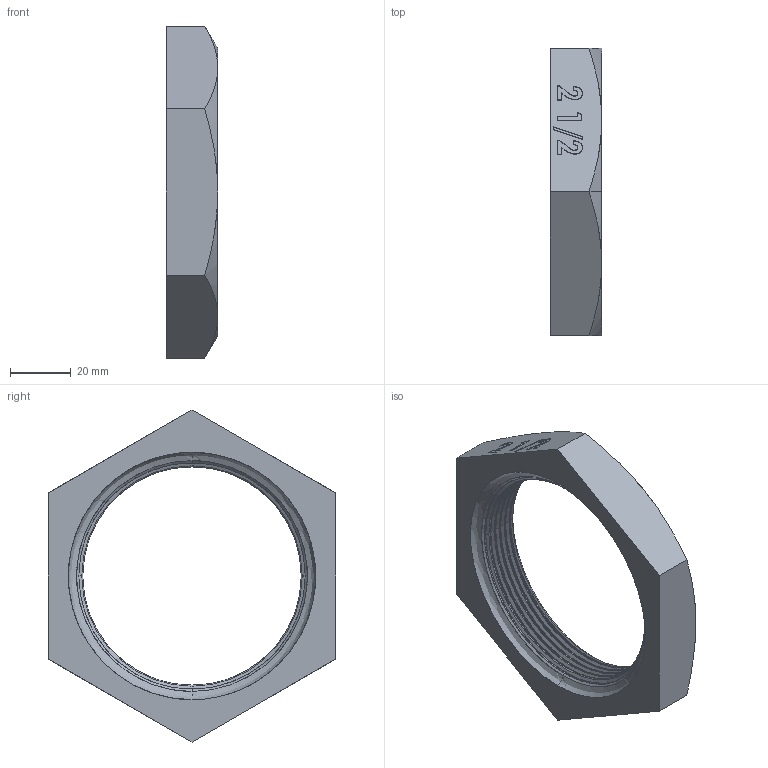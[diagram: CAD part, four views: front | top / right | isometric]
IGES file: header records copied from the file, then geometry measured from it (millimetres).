
Start section: SolidWorks IGES file using analytic representation for surfaces
Global section: file name: C:\Users\Joel Rosa\Desktop\Tubulação\12-06-XXX\12-06-011.IGS; native system: SolidWorks 2011; preprocessor: SolidWorks 2011; author: Joel Rosa; date: 130806.180851; units: millimetre
Bounding box: 17 x 95 x 109.7 mm (x, y, z)
Surface area: 17637.4 mm2 (no closed solid volume)
Topology: 0 solids, 0 shells, 185 faces, 1925 edges, 1925 vertices
Faces by surface type: bspline 150, revolution 35
